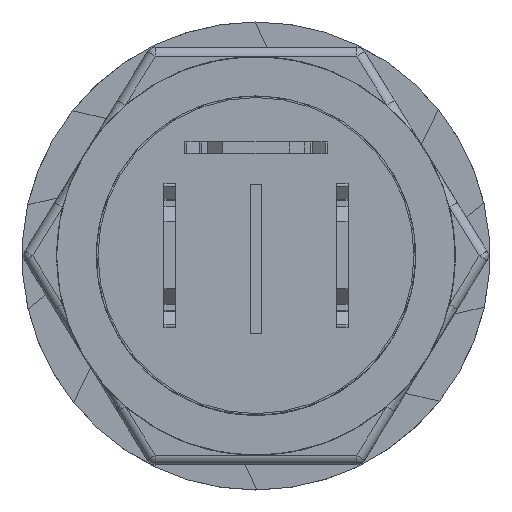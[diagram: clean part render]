
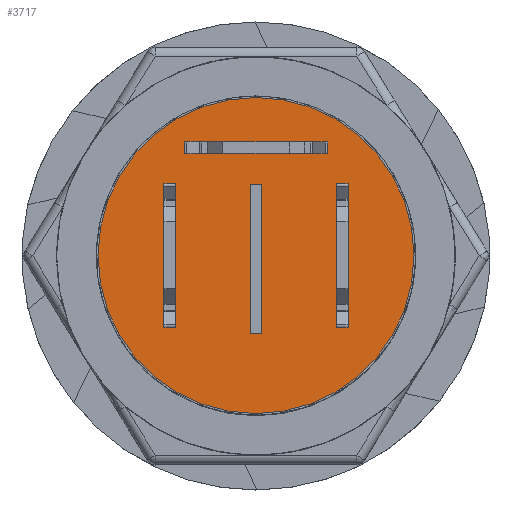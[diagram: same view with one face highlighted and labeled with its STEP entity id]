
A CAD part, top view. The second image highlights one B-rep face of the part: STEP entity #3717.
In plain terms, the highlighted planar face has unit normal (0, 0, 1).
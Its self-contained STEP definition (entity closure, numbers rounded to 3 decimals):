
#102=FACE_BOUND('',#617,.T.);
#103=FACE_BOUND('',#618,.T.);
#104=FACE_BOUND('',#619,.T.);
#105=FACE_BOUND('',#620,.T.);
#206=PLANE('',#4115);
#386=FACE_OUTER_BOUND('',#616,.T.);
#616=EDGE_LOOP('',(#2989));
#617=EDGE_LOOP('',(#2990,#2991,#2992,#2993));
#618=EDGE_LOOP('',(#2994,#2995,#2996,#2997));
#619=EDGE_LOOP('',(#2998,#2999,#3000,#3001));
#620=EDGE_LOOP('',(#3002,#3003,#3004,#3005));
#740=LINE('',#5544,#1101);
#744=LINE('',#5552,#1105);
#747=LINE('',#5558,#1108);
#750=LINE('',#5563,#1111);
#759=LINE('',#5594,#1120);
#785=LINE('',#5665,#1146);
#799=LINE('',#5698,#1160);
#811=LINE('',#5730,#1172);
#815=LINE('',#5744,#1176);
#829=LINE('',#5777,#1190);
#841=LINE('',#5809,#1202);
#889=LINE('',#5990,#1250);
#891=LINE('',#5995,#1252);
#923=LINE('',#6058,#1284);
#928=LINE('',#6074,#1289);
#929=LINE('',#6076,#1290);
#1101=VECTOR('',#4424,10.);
#1105=VECTOR('',#4430,10.);
#1108=VECTOR('',#4435,10.);
#1111=VECTOR('',#4440,10.);
#1120=VECTOR('',#4471,10.);
#1146=VECTOR('',#4531,10.);
#1160=VECTOR('',#4553,10.);
#1172=VECTOR('',#4585,10.);
#1176=VECTOR('',#4597,10.);
#1190=VECTOR('',#4619,10.);
#1202=VECTOR('',#4651,10.);
#1250=VECTOR('',#4777,10.);
#1252=VECTOR('',#4783,10.);
#1284=VECTOR('',#4851,10.);
#1289=VECTOR('',#4872,10.);
#1290=VECTOR('',#4875,10.);
#1479=CIRCLE('',#3989,10.3);
#1612=VERTEX_POINT('',#5542);
#1613=VERTEX_POINT('',#5543);
#1616=VERTEX_POINT('',#5551);
#1618=VERTEX_POINT('',#5557);
#1621=VERTEX_POINT('',#5569);
#1629=VERTEX_POINT('',#5591);
#1630=VERTEX_POINT('',#5593);
#1657=VERTEX_POINT('',#5662);
#1658=VERTEX_POINT('',#5664);
#1673=VERTEX_POINT('',#5696);
#1683=VERTEX_POINT('',#5728);
#1688=VERTEX_POINT('',#5741);
#1689=VERTEX_POINT('',#5743);
#1704=VERTEX_POINT('',#5775);
#1714=VERTEX_POINT('',#5807);
#1752=VERTEX_POINT('',#5988);
#1753=VERTEX_POINT('',#5994);
#1946=EDGE_CURVE('',#1612,#1613,#740,.T.);
#1950=EDGE_CURVE('',#1616,#1612,#744,.T.);
#1953=EDGE_CURVE('',#1618,#1616,#747,.T.);
#1956=EDGE_CURVE('',#1613,#1618,#750,.T.);
#1960=EDGE_CURVE('',#1621,#1621,#1479,.T.);
#1970=EDGE_CURVE('',#1630,#1629,#759,.T.);
#2005=EDGE_CURVE('',#1658,#1657,#785,.T.);
#2022=EDGE_CURVE('',#1657,#1673,#799,.T.);
#2038=EDGE_CURVE('',#1673,#1683,#811,.T.);
#2044=EDGE_CURVE('',#1689,#1688,#815,.T.);
#2061=EDGE_CURVE('',#1688,#1704,#829,.T.);
#2077=EDGE_CURVE('',#1704,#1714,#841,.T.);
#2144=EDGE_CURVE('',#1629,#1752,#889,.T.);
#2146=EDGE_CURVE('',#1753,#1630,#891,.T.);
#2178=EDGE_CURVE('',#1714,#1689,#923,.T.);
#2186=EDGE_CURVE('',#1683,#1658,#928,.T.);
#2187=EDGE_CURVE('',#1752,#1753,#929,.T.);
#2989=ORIENTED_EDGE('',*,*,#1960,.T.);
#2990=ORIENTED_EDGE('',*,*,#1946,.T.);
#2991=ORIENTED_EDGE('',*,*,#1956,.T.);
#2992=ORIENTED_EDGE('',*,*,#1953,.T.);
#2993=ORIENTED_EDGE('',*,*,#1950,.T.);
#2994=ORIENTED_EDGE('',*,*,#2022,.T.);
#2995=ORIENTED_EDGE('',*,*,#2038,.T.);
#2996=ORIENTED_EDGE('',*,*,#2186,.T.);
#2997=ORIENTED_EDGE('',*,*,#2005,.T.);
#2998=ORIENTED_EDGE('',*,*,#2187,.T.);
#2999=ORIENTED_EDGE('',*,*,#2146,.T.);
#3000=ORIENTED_EDGE('',*,*,#1970,.T.);
#3001=ORIENTED_EDGE('',*,*,#2144,.T.);
#3002=ORIENTED_EDGE('',*,*,#2061,.T.);
#3003=ORIENTED_EDGE('',*,*,#2077,.T.);
#3004=ORIENTED_EDGE('',*,*,#2178,.T.);
#3005=ORIENTED_EDGE('',*,*,#2044,.T.);
#3717=ADVANCED_FACE('',(#386,#102,#103,#104,#105),#206,.T.);
#3989=AXIS2_PLACEMENT_3D('',#5571,#4449,#4450);
#4115=AXIS2_PLACEMENT_3D('',#6080,#4880,#4881);
#4424=DIRECTION('',(-1.,0.,0.));
#4430=DIRECTION('',(0.,-1.,0.));
#4435=DIRECTION('',(1.,0.,0.));
#4440=DIRECTION('',(0.,1.,0.));
#4449=DIRECTION('center_axis',(0.,0.,1.));
#4450=DIRECTION('ref_axis',(-1.,0.,0.));
#4471=DIRECTION('',(0.,-1.,0.));
#4531=DIRECTION('',(0.,1.,0.));
#4553=DIRECTION('',(1.,0.,0.));
#4585=DIRECTION('',(0.,-1.,0.));
#4597=DIRECTION('',(1.,0.,0.));
#4619=DIRECTION('',(0.,-1.,0.));
#4651=DIRECTION('',(-1.,0.,0.));
#4777=DIRECTION('',(-1.,0.,0.));
#4783=DIRECTION('',(1.,0.,0.));
#4851=DIRECTION('',(0.,1.,0.));
#4872=DIRECTION('',(-1.,0.,0.));
#4875=DIRECTION('',(0.,1.,0.));
#4880=DIRECTION('center_axis',(0.,0.,1.));
#4881=DIRECTION('ref_axis',(1.,0.,0.));
#5542=CARTESIAN_POINT('',(0.375,-5.1,17.75));
#5543=CARTESIAN_POINT('',(-0.375,-5.1,17.75));
#5544=CARTESIAN_POINT('',(0.188,-5.1,17.75));
#5551=CARTESIAN_POINT('',(0.375,4.65,17.75));
#5552=CARTESIAN_POINT('',(0.375,2.325,17.75));
#5557=CARTESIAN_POINT('',(-0.375,4.65,17.75));
#5558=CARTESIAN_POINT('',(-0.188,4.65,17.75));
#5563=CARTESIAN_POINT('',(-0.375,-2.55,17.75));
#5569=CARTESIAN_POINT('',(10.3,0.,17.75));
#5571=CARTESIAN_POINT('Origin',(0.,0.,17.75));
#5591=CARTESIAN_POINT('',(-5.25,-4.675,17.75));
#5593=CARTESIAN_POINT('',(-5.25,4.675,17.75));
#5594=CARTESIAN_POINT('',(-5.25,-1.963,17.75));
#5662=CARTESIAN_POINT('',(-4.675,7.4,17.75));
#5664=CARTESIAN_POINT('',(-4.675,6.65,17.75));
#5665=CARTESIAN_POINT('',(-4.675,3.7,17.75));
#5696=CARTESIAN_POINT('',(4.675,7.4,17.75));
#5698=CARTESIAN_POINT('',(-1.963,7.4,17.75));
#5728=CARTESIAN_POINT('',(4.675,6.65,17.75));
#5730=CARTESIAN_POINT('',(4.675,3.7,17.75));
#5741=CARTESIAN_POINT('',(6.,4.675,17.75));
#5743=CARTESIAN_POINT('',(5.25,4.675,17.75));
#5744=CARTESIAN_POINT('',(3.,4.675,17.75));
#5775=CARTESIAN_POINT('',(6.,-4.675,17.75));
#5777=CARTESIAN_POINT('',(6.,1.963,17.75));
#5807=CARTESIAN_POINT('',(5.25,-4.675,17.75));
#5809=CARTESIAN_POINT('',(3.,-4.675,17.75));
#5988=CARTESIAN_POINT('',(-6.,-4.675,17.75));
#5990=CARTESIAN_POINT('',(-3.,-4.675,17.75));
#5994=CARTESIAN_POINT('',(-6.,4.675,17.75));
#5995=CARTESIAN_POINT('',(-3.,4.675,17.75));
#6058=CARTESIAN_POINT('',(5.25,1.963,17.75));
#6074=CARTESIAN_POINT('',(1.963,6.65,17.75));
#6076=CARTESIAN_POINT('',(-6.,-1.963,17.75));
#6080=CARTESIAN_POINT('Origin',(0.,0.,17.75));
